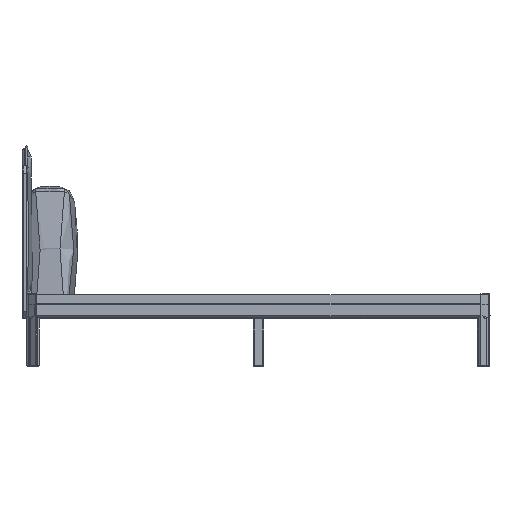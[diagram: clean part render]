
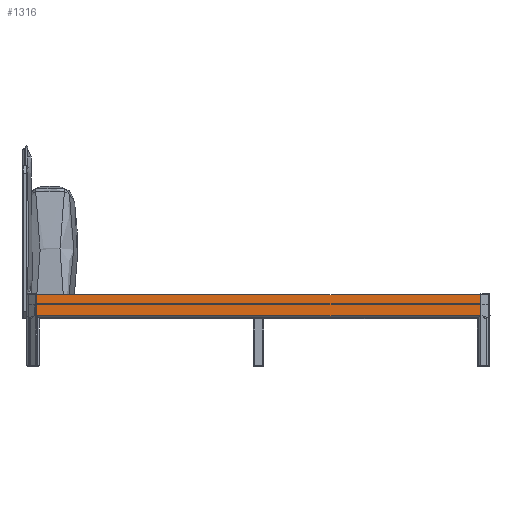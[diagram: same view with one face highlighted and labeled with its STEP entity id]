
A CAD part, left-side view. The second image highlights one B-rep face of the part: STEP entity #1316.
In plain terms, the highlighted planar face has unit normal (-1, 0, 0).
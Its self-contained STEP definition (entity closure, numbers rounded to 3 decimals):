
#1316=ADVANCED_FACE('',(#3464),#31709,.T.);
#3464=FACE_OUTER_BOUND('',#5615,.T.);
#5615=EDGE_LOOP('',(#8788,#8789,#8790,#8791,#8792,#8793));
#8788=ORIENTED_EDGE('',*,*,#18587,.F.);
#8789=ORIENTED_EDGE('',*,*,#18600,.F.);
#8790=ORIENTED_EDGE('',*,*,#18576,.F.);
#8791=ORIENTED_EDGE('',*,*,#18568,.F.);
#8792=ORIENTED_EDGE('',*,*,#18598,.F.);
#8793=ORIENTED_EDGE('',*,*,#18580,.F.);
#18568=EDGE_CURVE('',#28771,#28772,#26408,.T.);
#18576=EDGE_CURVE('',#28772,#28780,#26416,.T.);
#18580=EDGE_CURVE('',#28784,#28785,#26420,.T.);
#18587=EDGE_CURVE('',#28793,#28784,#26427,.T.);
#18598=EDGE_CURVE('',#28785,#28771,#23528,.T.);
#18600=EDGE_CURVE('',#28780,#28793,#26431,.T.);
#23528=(
BOUNDED_CURVE()
B_SPLINE_CURVE(1,(#52200,#52201),.UNSPECIFIED.,.F.,.F.)
B_SPLINE_CURVE_WITH_KNOTS((2,2),(0.,2118.4),.UNSPECIFIED.)
CURVE()
GEOMETRIC_REPRESENTATION_ITEM()
RATIONAL_B_SPLINE_CURVE((1.,1.))
REPRESENTATION_ITEM('')
);
#26408=B_SPLINE_CURVE_WITH_KNOTS('',1,(#52076,#52077),.UNSPECIFIED.,.F.,
 .F.,(2,2),(0.,100.963),.UNSPECIFIED.);
#26416=B_SPLINE_CURVE_WITH_KNOTS('',1,(#52106,#52107),.UNSPECIFIED.,.F.,
 .F.,(2,2),(0.,0.017),.UNSPECIFIED.);
#26420=B_SPLINE_CURVE_WITH_KNOTS('',1,(#52128,#52129),.UNSPECIFIED.,.F.,
 .F.,(2,2),(0.,100.963),.UNSPECIFIED.);
#26427=B_SPLINE_CURVE_WITH_KNOTS('',1,(#52170,#52171),.UNSPECIFIED.,.F.,
 .F.,(2,2),(0.,0.017),.UNSPECIFIED.);
#26431=B_SPLINE_CURVE_WITH_KNOTS('',1,(#52204,#52205),.UNSPECIFIED.,.F.,
 .F.,(2,2),(0.,2118.376),.UNSPECIFIED.);
#28771=VERTEX_POINT('',#52051);
#28772=VERTEX_POINT('',#52052);
#28780=VERTEX_POINT('',#52060);
#28784=VERTEX_POINT('',#52064);
#28785=VERTEX_POINT('',#52065);
#28793=VERTEX_POINT('',#52073);
#31709=PLANE('',#33180);
#33180=AXIS2_PLACEMENT_3D('',#52045,#34910,$);
#34910=DIRECTION('',(-1.,0.,0.));
#52045=CARTESIAN_POINT('',(-6405.5,1174.552,227.32));
#52051=CARTESIAN_POINT('',(-6405.5,-1155.7,338.404));
#52052=CARTESIAN_POINT('',(-6405.5,-1155.7,237.441));
#52060=CARTESIAN_POINT('',(-6405.5,-1155.688,237.429));
#52064=CARTESIAN_POINT('',(-6405.5,962.7,237.441));
#52065=CARTESIAN_POINT('',(-6405.5,962.7,338.404));
#52073=CARTESIAN_POINT('',(-6405.5,962.688,237.429));
#52076=CARTESIAN_POINT('',(-6405.5,-1155.7,338.404));
#52077=CARTESIAN_POINT('',(-6405.5,-1155.7,237.441));
#52106=CARTESIAN_POINT('',(-6405.5,-1155.7,237.441));
#52107=CARTESIAN_POINT('',(-6405.5,-1155.688,237.429));
#52128=CARTESIAN_POINT('',(-6405.5,962.7,237.441));
#52129=CARTESIAN_POINT('',(-6405.5,962.7,338.404));
#52170=CARTESIAN_POINT('',(-6405.5,962.688,237.429));
#52171=CARTESIAN_POINT('',(-6405.5,962.7,237.441));
#52200=CARTESIAN_POINT('',(-6405.5,962.7,338.404));
#52201=CARTESIAN_POINT('',(-6405.5,-1155.7,338.404));
#52204=CARTESIAN_POINT('',(-6405.5,-1155.688,237.429));
#52205=CARTESIAN_POINT('',(-6405.5,962.688,237.429));
